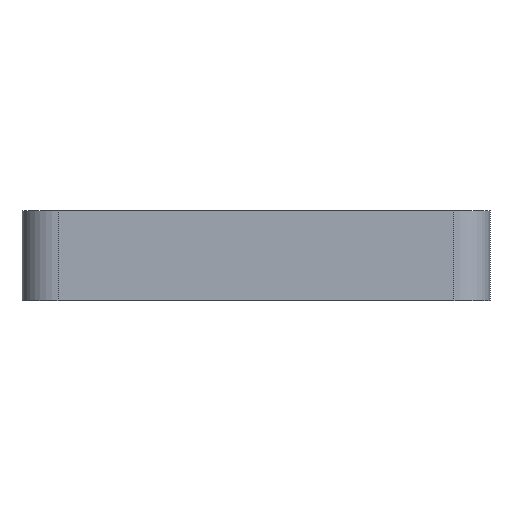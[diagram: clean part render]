
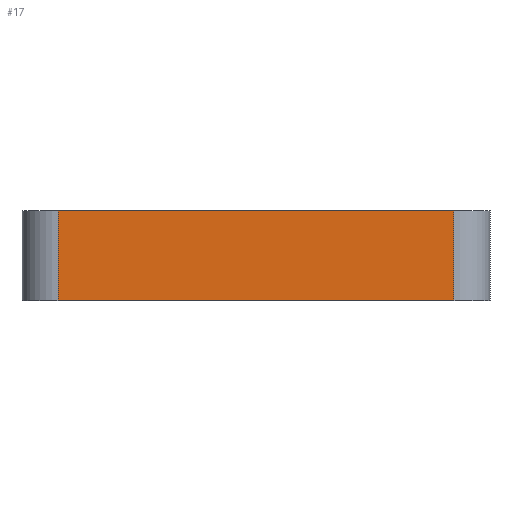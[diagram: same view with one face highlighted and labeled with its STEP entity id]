
A CAD part, left-side view. The second image highlights one B-rep face of the part: STEP entity #17.
In plain terms, the highlighted planar face has unit normal (-1, 0, 0).
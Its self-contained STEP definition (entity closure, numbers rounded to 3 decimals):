
#17 = ADVANCED_FACE('',(#18),#32,.F.);
#18 = FACE_BOUND('',#19,.F.);
#19 = EDGE_LOOP('',(#20,#55,#83,#111));
#20 = ORIENTED_EDGE('',*,*,#21,.F.);
#21 = EDGE_CURVE('',#22,#24,#26,.T.);
#22 = VERTEX_POINT('',#23);
#23 = CARTESIAN_POINT('',(-10.54,-12.35,1.));
#24 = VERTEX_POINT('',#25);
#25 = CARTESIAN_POINT('',(-10.54,-7.95,1.));
#26 = SURFACE_CURVE('',#27,(#31,#43),.PCURVE_S1.);
#27 = LINE('',#28,#29);
#28 = CARTESIAN_POINT('',(-10.54,-12.75,1.));
#29 = VECTOR('',#30,1.);
#30 = DIRECTION('',(0.,1.,0.));
#31 = PCURVE('',#32,#37);
#32 = PLANE('',#33);
#33 = AXIS2_PLACEMENT_3D('',#34,#35,#36);
#34 = CARTESIAN_POINT('',(-10.54,-12.75,0.));
#35 = DIRECTION('',(1.,0.,0.));
#36 = DIRECTION('',(0.,0.,1.));
#37 = DEFINITIONAL_REPRESENTATION('',(#38),#42);
#38 = LINE('',#39,#40);
#39 = CARTESIAN_POINT('',(1.,0.));
#40 = VECTOR('',#41,1.);
#41 = DIRECTION('',(0.,-1.));
#42 = ( GEOMETRIC_REPRESENTATION_CONTEXT(2) 
PARAMETRIC_REPRESENTATION_CONTEXT() REPRESENTATION_CONTEXT('2D SPACE',''
  ) );
#43 = PCURVE('',#44,#49);
#44 = PLANE('',#45);
#45 = AXIS2_PLACEMENT_3D('',#46,#47,#48);
#46 = CARTESIAN_POINT('',(-10.54,-12.75,1.));
#47 = DIRECTION('',(0.,0.,1.));
#48 = DIRECTION('',(1.,0.,0.));
#49 = DEFINITIONAL_REPRESENTATION('',(#50),#54);
#50 = LINE('',#51,#52);
#51 = CARTESIAN_POINT('',(0.,0.));
#52 = VECTOR('',#53,1.);
#53 = DIRECTION('',(0.,1.));
#54 = ( GEOMETRIC_REPRESENTATION_CONTEXT(2) 
PARAMETRIC_REPRESENTATION_CONTEXT() REPRESENTATION_CONTEXT('2D SPACE',''
  ) );
#55 = ORIENTED_EDGE('',*,*,#56,.F.);
#56 = EDGE_CURVE('',#57,#22,#59,.T.);
#57 = VERTEX_POINT('',#58);
#58 = CARTESIAN_POINT('',(-10.54,-12.35,0.));
#59 = SURFACE_CURVE('',#60,(#64,#71),.PCURVE_S1.);
#60 = LINE('',#61,#62);
#61 = CARTESIAN_POINT('',(-10.54,-12.35,0.));
#62 = VECTOR('',#63,1.);
#63 = DIRECTION('',(0.,0.,1.));
#64 = PCURVE('',#32,#65);
#65 = DEFINITIONAL_REPRESENTATION('',(#66),#70);
#66 = LINE('',#67,#68);
#67 = CARTESIAN_POINT('',(0.,-0.4));
#68 = VECTOR('',#69,1.);
#69 = DIRECTION('',(1.,0.));
#70 = ( GEOMETRIC_REPRESENTATION_CONTEXT(2) 
PARAMETRIC_REPRESENTATION_CONTEXT() REPRESENTATION_CONTEXT('2D SPACE',''
  ) );
#71 = PCURVE('',#72,#77);
#72 = CYLINDRICAL_SURFACE('',#73,0.4);
#73 = AXIS2_PLACEMENT_3D('',#74,#75,#76);
#74 = CARTESIAN_POINT('',(-10.14,-12.35,0.));
#75 = DIRECTION('',(0.,0.,1.));
#76 = DIRECTION('',(-1.,-0.,0.));
#77 = DEFINITIONAL_REPRESENTATION('',(#78),#82);
#78 = LINE('',#79,#80);
#79 = CARTESIAN_POINT('',(0.,0.));
#80 = VECTOR('',#81,1.);
#81 = DIRECTION('',(0.,1.));
#82 = ( GEOMETRIC_REPRESENTATION_CONTEXT(2) 
PARAMETRIC_REPRESENTATION_CONTEXT() REPRESENTATION_CONTEXT('2D SPACE',''
  ) );
#83 = ORIENTED_EDGE('',*,*,#84,.T.);
#84 = EDGE_CURVE('',#57,#85,#87,.T.);
#85 = VERTEX_POINT('',#86);
#86 = CARTESIAN_POINT('',(-10.54,-7.95,0.));
#87 = SURFACE_CURVE('',#88,(#92,#99),.PCURVE_S1.);
#88 = LINE('',#89,#90);
#89 = CARTESIAN_POINT('',(-10.54,-12.75,0.));
#90 = VECTOR('',#91,1.);
#91 = DIRECTION('',(0.,1.,0.));
#92 = PCURVE('',#32,#93);
#93 = DEFINITIONAL_REPRESENTATION('',(#94),#98);
#94 = LINE('',#95,#96);
#95 = CARTESIAN_POINT('',(0.,0.));
#96 = VECTOR('',#97,1.);
#97 = DIRECTION('',(0.,-1.));
#98 = ( GEOMETRIC_REPRESENTATION_CONTEXT(2) 
PARAMETRIC_REPRESENTATION_CONTEXT() REPRESENTATION_CONTEXT('2D SPACE',''
  ) );
#99 = PCURVE('',#100,#105);
#100 = PLANE('',#101);
#101 = AXIS2_PLACEMENT_3D('',#102,#103,#104);
#102 = CARTESIAN_POINT('',(-10.54,-12.75,0.));
#103 = DIRECTION('',(0.,0.,1.));
#104 = DIRECTION('',(1.,0.,0.));
#105 = DEFINITIONAL_REPRESENTATION('',(#106),#110);
#106 = LINE('',#107,#108);
#107 = CARTESIAN_POINT('',(0.,0.));
#108 = VECTOR('',#109,1.);
#109 = DIRECTION('',(0.,1.));
#110 = ( GEOMETRIC_REPRESENTATION_CONTEXT(2) 
PARAMETRIC_REPRESENTATION_CONTEXT() REPRESENTATION_CONTEXT('2D SPACE',''
  ) );
#111 = ORIENTED_EDGE('',*,*,#112,.T.);
#112 = EDGE_CURVE('',#85,#24,#113,.T.);
#113 = SURFACE_CURVE('',#114,(#118,#125),.PCURVE_S1.);
#114 = LINE('',#115,#116);
#115 = CARTESIAN_POINT('',(-10.54,-7.95,0.));
#116 = VECTOR('',#117,1.);
#117 = DIRECTION('',(0.,0.,1.));
#118 = PCURVE('',#32,#119);
#119 = DEFINITIONAL_REPRESENTATION('',(#120),#124);
#120 = LINE('',#121,#122);
#121 = CARTESIAN_POINT('',(0.,-4.8));
#122 = VECTOR('',#123,1.);
#123 = DIRECTION('',(1.,0.));
#124 = ( GEOMETRIC_REPRESENTATION_CONTEXT(2) 
PARAMETRIC_REPRESENTATION_CONTEXT() REPRESENTATION_CONTEXT('2D SPACE',''
  ) );
#125 = PCURVE('',#126,#131);
#126 = CYLINDRICAL_SURFACE('',#127,0.4);
#127 = AXIS2_PLACEMENT_3D('',#128,#129,#130);
#128 = CARTESIAN_POINT('',(-10.14,-7.95,0.));
#129 = DIRECTION('',(0.,0.,1.));
#130 = DIRECTION('',(-1.,-0.,0.));
#131 = DEFINITIONAL_REPRESENTATION('',(#132),#136);
#132 = LINE('',#133,#134);
#133 = CARTESIAN_POINT('',(-0.,0.));
#134 = VECTOR('',#135,1.);
#135 = DIRECTION('',(-0.,1.));
#136 = ( GEOMETRIC_REPRESENTATION_CONTEXT(2) 
PARAMETRIC_REPRESENTATION_CONTEXT() REPRESENTATION_CONTEXT('2D SPACE',''
  ) );
